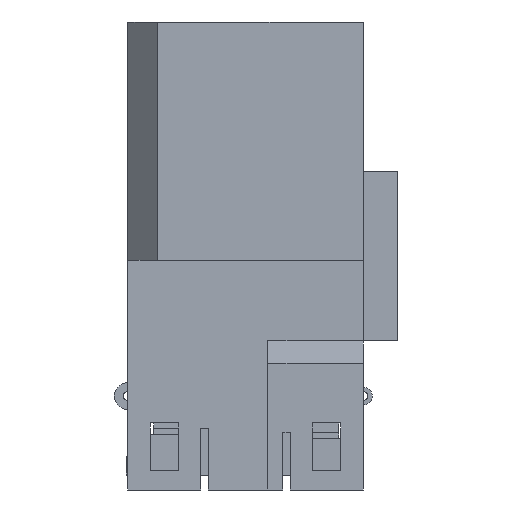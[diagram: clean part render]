
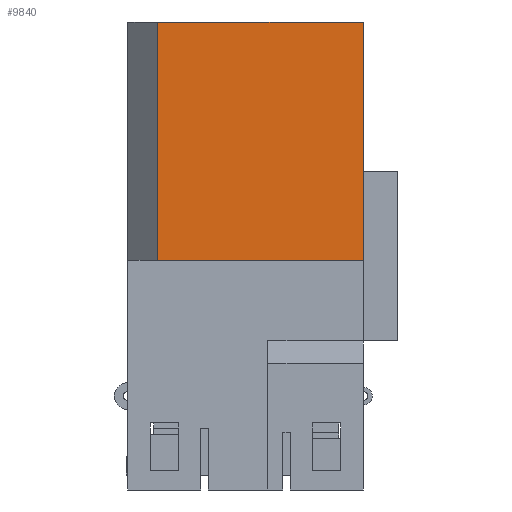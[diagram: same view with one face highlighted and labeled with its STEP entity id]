
A CAD part, left-side view. The second image highlights one B-rep face of the part: STEP entity #9840.
In plain terms, the highlighted planar face has unit normal (-1, 0, 0).
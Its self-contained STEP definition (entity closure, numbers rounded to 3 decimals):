
#688=DIRECTION('',(0.,0.,-1.));
#689=VECTOR('',#688,16.);
#690=CARTESIAN_POINT('',(-11.1,-7.9,0.));
#691=LINE('',#690,#689);
#3350=DIRECTION('',(0.,-1.,0.));
#3351=VECTOR('',#3350,13.8);
#3352=CARTESIAN_POINT('',(-11.1,5.9,-16.));
#3353=LINE('',#3352,#3351);
#3354=DIRECTION('',(0.,0.,-1.));
#3355=VECTOR('',#3354,16.);
#3356=CARTESIAN_POINT('',(-11.1,5.9,0.));
#3357=LINE('',#3356,#3355);
#3358=DIRECTION('',(0.,-1.,0.));
#3359=VECTOR('',#3358,13.8);
#3360=CARTESIAN_POINT('',(-11.1,5.9,0.));
#3361=LINE('',#3360,#3359);
#4183=CARTESIAN_POINT('',(-11.1,-7.9,0.));
#4185=VERTEX_POINT('',#4183);
#4186=CARTESIAN_POINT('',(-11.1,-7.9,-16.));
#4187=VERTEX_POINT('',#4186);
#5303=CARTESIAN_POINT('',(-11.1,5.9,0.));
#5304=VERTEX_POINT('',#5303);
#5307=CARTESIAN_POINT('',(-11.1,5.9,-16.));
#5308=VERTEX_POINT('',#5307);
#9829=CARTESIAN_POINT('',(-11.1,7.9,0.));
#9830=DIRECTION('',(-1.,0.,0.));
#9831=DIRECTION('',(0.,0.,-1.));
#9832=AXIS2_PLACEMENT_3D('',#9829,#9830,#9831);
#9833=PLANE('',#9832);
#9834=ORIENTED_EDGE('',*,*,#9822,.F.);
#9835=ORIENTED_EDGE('',*,*,#8373,.T.);
#9836=ORIENTED_EDGE('',*,*,#6251,.T.);
#9837=ORIENTED_EDGE('',*,*,#9808,.F.);
#9838=EDGE_LOOP('',(#9834,#9835,#9836,#9837));
#9839=FACE_OUTER_BOUND('',#9838,.F.);
#9840=ADVANCED_FACE('',(#9839),#9833,.T.);
#6251=EDGE_CURVE('',#4185,#4187,#691,.T.);
#8373=EDGE_CURVE('',#5304,#4185,#3361,.T.);
#9808=EDGE_CURVE('',#5308,#4187,#3353,.T.);
#9822=EDGE_CURVE('',#5304,#5308,#3357,.T.);
